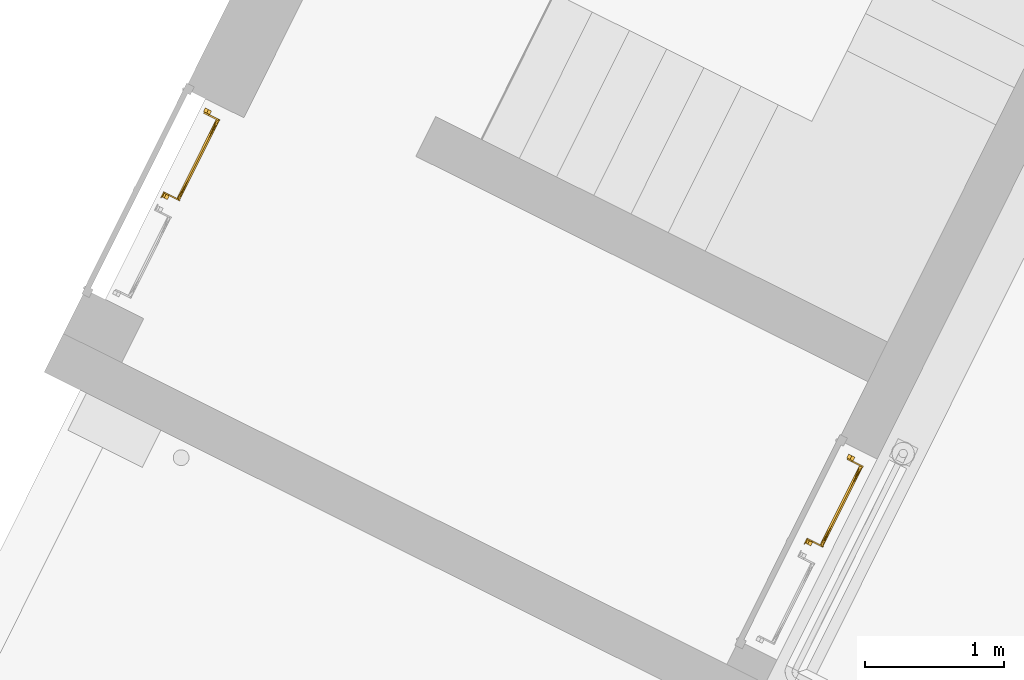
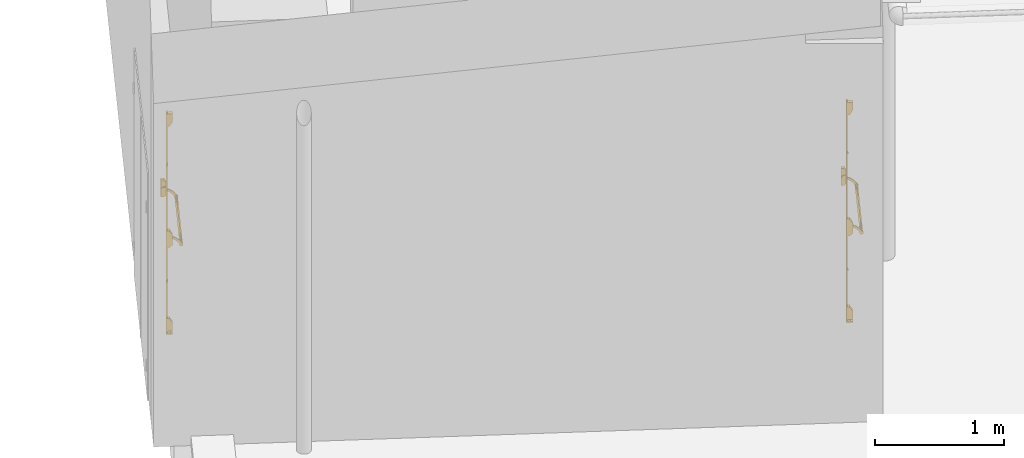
# One storey, part 27 of 91: 2 doors.
"""IFC2X3 building model written with IfcOpenShell, lengths in metres."""

from ifc_helpers import new_model, entity, si_unit, converted_unit, derived_unit, direction, frame, origin, place, context, subcontext, project, spatial, faceted_brep, source, transform, mapped, material, material_list, type_object, type_shapes, element, save


model = new_model("IFC2X3")

# Units and contexts
model_context = context("Model", 3, precision=1e-05, world=origin(), true_north=direction((0.894925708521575, 0.446215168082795)))
context_of_model = context(None, 3, precision=1e-05, world=origin(), true_north=direction((0.894925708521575, 0.446215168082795)))
body_context = subcontext(model_context, "Body", "Model", "MODEL_VIEW")
ifc_project = project(units=[si_unit("LENGTHUNIT", "METRE"), si_unit("AREAUNIT", "SQUARE_METRE"), si_unit("VOLUMEUNIT", "CUBIC_METRE"), converted_unit("PLANEANGLEUNIT", "DEGREE", entity("IfcRatioMeasure", 0.0174532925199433), si_unit("PLANEANGLEUNIT", "RADIAN"), dimensions=[0, 0, 0, 0, 0, 0, 0]), si_unit("MASSUNIT", "GRAM", prefix="KILO"), si_unit("TIMEUNIT", "SECOND"), si_unit("FREQUENCYUNIT", "HERTZ"), si_unit("THERMODYNAMICTEMPERATUREUNIT", "DEGREE_CELSIUS"), derived_unit("THERMALTRANSMITTANCEUNIT", [(si_unit("MASSUNIT", "GRAM", prefix="KILO"), 1), (si_unit("THERMODYNAMICTEMPERATUREUNIT", "KELVIN"), -1), (si_unit("TIMEUNIT", "SECOND"), -3)]), derived_unit("VOLUMETRICFLOWRATEUNIT", [(si_unit("LENGTHUNIT", "METRE"), 3), (si_unit("TIMEUNIT", "SECOND"), -1)]), si_unit("ELECTRICCURRENTUNIT", "AMPERE"), si_unit("ELECTRICVOLTAGEUNIT", "VOLT"), si_unit("POWERUNIT", "WATT"), si_unit("FORCEUNIT", "NEWTON", prefix="KILO"), si_unit("ILLUMINANCEUNIT", "LUX"), si_unit("LUMINOUSFLUXUNIT", "LUMEN"), si_unit("LUMINOUSINTENSITYUNIT", "CANDELA"), si_unit("PRESSUREUNIT", "PASCAL")], contexts=[model_context, context_of_model])

# Site, building, storey
site_placement = place(None, frame((218.228324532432, 584.720189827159, 0.0), z_axis=(0.0, 0.0, 1.0), x_axis=(0.446215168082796, 0.894925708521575, 0.0)))
site = spatial("IfcSite", under=ifc_project, at=site_placement, Name="Default", CompositionType="ELEMENT")
building_placement = place(site_placement, origin())
building = spatial("IfcBuilding", under=site, at=building_placement, CompositionType="ELEMENT")
storey_placement = place(building_placement, origin())
storey = spatial("IfcBuildingStorey", under=building, at=storey_placement, Name="0 - Piano Terra", CompositionType="ELEMENT", Elevation=0.0)

# Doors
ifc_material_1 = material(Name="Peinture - Gris fonçé")
ifc_material_2 = material(Name="Peinture - Gris")
ifc_material_list_1 = material_list([ifc_material_1, ifc_material_2])
ifc_material_list_2 = material_list([ifc_material_1, ifc_material_2])
door_style = type_object("IfcDoorStyle", Name="BarreAP", ConstructionType="NOTDEFINED", OperationType="NOTDEFINED", ParameterTakesPrecedence=False, Sizeable=False, material=ifc_material_list_2)
shared_shape = source(origin(), body_context, "Body", "Brep", [
    faceted_brep([(0.660000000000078, -0.115651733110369, 0.814015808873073), (0.660000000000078, -0.112636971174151, 0.815264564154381), (0.660000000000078, -0.110048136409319, 0.817251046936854), (0.660000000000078, -0.108061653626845, 0.819839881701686), (0.660000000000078, -0.106812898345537, 0.822854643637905), (0.660000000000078, -0.106386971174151, 0.826089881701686), (0.660000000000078, -0.106812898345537, 0.829325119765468), (0.660000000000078, -0.108061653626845, 0.832339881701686), (0.660000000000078, -0.110048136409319, 0.834928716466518), (0.660000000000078, -0.112636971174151, 0.836915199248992), (0.660000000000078, -0.115651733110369, 0.838163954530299), (0.660000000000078, -0.118886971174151, 0.838589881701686), (0.660000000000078, -0.122122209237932, 0.838163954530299), (0.660000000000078, -0.125136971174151, 0.836915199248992), (0.660000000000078, -0.127725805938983, 0.834928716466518), (0.660000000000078, -0.129712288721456, 0.832339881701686), (0.660000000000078, -0.130961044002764, 0.829325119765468), (0.660000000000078, -0.131386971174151, 0.826089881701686), (0.660000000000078, -0.130961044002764, 0.822854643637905), (0.660000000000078, -0.129712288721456, 0.819839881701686), (0.660000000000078, -0.127725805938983, 0.817251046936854), (0.660000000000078, -0.125136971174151, 0.815264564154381), (0.660000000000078, -0.122122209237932, 0.814015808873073), (0.660000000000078, -0.118886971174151, 0.813589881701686), (0.0250000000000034, -0.122122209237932, 0.838163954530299), (0.0250000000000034, -0.118886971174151, 0.838589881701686), (0.0250000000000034, -0.115651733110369, 0.838163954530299), (0.0250000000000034, -0.112636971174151, 0.836915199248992), (0.0250000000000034, -0.110048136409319, 0.834928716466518), (0.0250000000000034, -0.108061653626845, 0.832339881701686), (0.0250000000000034, -0.106812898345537, 0.829325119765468), (0.0250000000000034, -0.106386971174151, 0.826089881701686), (0.0250000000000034, -0.106812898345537, 0.822854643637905), (0.0250000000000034, -0.108061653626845, 0.819839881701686), (0.0250000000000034, -0.110048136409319, 0.817251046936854), (0.0250000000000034, -0.112636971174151, 0.815264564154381), (0.0250000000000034, -0.115651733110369, 0.814015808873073), (0.0250000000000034, -0.118886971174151, 0.813589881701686), (0.0250000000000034, -0.122122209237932, 0.814015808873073), (0.0250000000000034, -0.125136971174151, 0.815264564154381), (0.0250000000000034, -0.127725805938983, 0.817251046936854), (0.0250000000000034, -0.129712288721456, 0.819839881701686), (0.0250000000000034, -0.130961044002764, 0.822854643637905), (0.0250000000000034, -0.131386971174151, 0.826089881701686), (0.0250000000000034, -0.130961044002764, 0.829325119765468), (0.0250000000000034, -0.129712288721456, 0.832339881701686), (0.0250000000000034, -0.127725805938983, 0.834928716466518), (0.0250000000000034, -0.125136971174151, 0.836915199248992), (0.187822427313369, -0.117501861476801, 0.813666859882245), (0.148450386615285, -0.131386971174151, 0.826089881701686), (0.342500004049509, -0.117635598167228, 0.813652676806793), (0.27190080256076, -0.106386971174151, 0.826089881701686), (0.342500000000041, -0.106386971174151, 0.826089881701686), (0.413099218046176, -0.106386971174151, 0.826089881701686), (0.497177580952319, -0.117501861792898, 0.813666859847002), (0.536549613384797, -0.131386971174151, 0.826089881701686), (0.342500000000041, -0.131386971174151, 0.826089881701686), (0.413099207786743, -0.131386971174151, 0.826089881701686), (0.536549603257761, -0.106386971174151, 0.826089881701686), (0.14845039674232, -0.106386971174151, 0.826089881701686), (0.271900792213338, -0.131386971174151, 0.826089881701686), (0.49717758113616, -0.120272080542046, 0.83851290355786), (0.187822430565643, -0.120272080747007, 0.838512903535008), (0.342500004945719, -0.120138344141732, 0.838527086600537)], [[[0, 1, 2, 3, 4, 5, 6, 7, 8, 9, 10, 11, 12, 13, 14, 15, 16, 17, 18, 19, 20, 21, 22, 23]], [[24, 25, 26, 27, 28, 29, 30, 31, 32, 33, 34, 35, 36, 37, 38, 39, 40, 41, 42, 43, 44, 45, 46, 47]], [[35, 48, 36]], [[38, 48, 39]], [[39, 49, 40]], [[48, 35, 34]], [[50, 51, 52, 53]], [[23, 54, 0]], [[55, 20, 19]], [[49, 41, 40]], [[55, 54, 21]], [[37, 36, 48]], [[41, 49, 42]], [[42, 49, 43]], [[18, 17, 55]], [[48, 50, 56]], [[54, 56, 50]], [[54, 55, 57, 56]], [[4, 3, 54]], [[55, 19, 18]], [[37, 48, 38]], [[34, 33, 48]], [[32, 48, 33]], [[48, 32, 51]], [[50, 48, 51]], [[4, 53, 58, 5]], [[32, 31, 59, 51]], [[48, 56, 60, 49]], [[20, 55, 21]], [[22, 21, 54]], [[4, 54, 53]], [[23, 22, 54]], [[54, 2, 1]], [[1, 0, 54]], [[49, 39, 48]], [[50, 53, 54]], [[3, 2, 54]], [[16, 15, 61]], [[59, 27, 62]], [[16, 61, 57]], [[62, 27, 26]], [[62, 63, 52]], [[15, 14, 61]], [[8, 7, 58]], [[59, 29, 28]], [[62, 25, 24]], [[58, 61, 9]], [[59, 31, 30]], [[6, 5, 58]], [[11, 61, 12]], [[7, 6, 58]], [[52, 63, 61]], [[25, 62, 26]], [[28, 27, 59]], [[47, 46, 62]], [[61, 58, 53, 52]], [[63, 60, 56, 57]], [[29, 59, 30]], [[45, 62, 46]], [[44, 62, 45]], [[62, 44, 60]], [[63, 62, 60]], [[16, 57, 55, 17]], [[44, 43, 49, 60]], [[47, 62, 24]], [[8, 58, 9]], [[61, 10, 9]], [[11, 10, 61]], [[14, 13, 61]], [[12, 61, 13]], [[63, 57, 61]], [[62, 52, 51, 59]]]),
    faceted_brep([(0.660000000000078, -0.0338758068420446, 0.91792261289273), (0.660000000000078, -0.0289439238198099, 0.919607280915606), (0.660000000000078, -0.0237442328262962, 0.919960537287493), (0.660000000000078, -0.0186298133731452, 0.918958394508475), (0.660000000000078, -0.0139479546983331, 0.916668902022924), (0.660000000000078, -0.0100165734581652, 0.913247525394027), (0.660000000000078, -0.00710262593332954, 0.908926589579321), (0.660000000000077, -0.00540398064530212, 0.903999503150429), (0.660000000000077, -0.00503598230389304, 0.898800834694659), (0.660000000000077, -0.0060236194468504, 0.893683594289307), (0.660000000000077, -0.00829982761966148, 0.888995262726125), (0.660000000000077, -0.0117100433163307, 0.885054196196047), (0.660000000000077, -0.0160226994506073, 0.88212800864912), (0.660000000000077, -0.0209449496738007, 0.880415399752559), (0.660000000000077, -0.0261425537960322, 0.880032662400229), (0.660000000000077, -0.0312625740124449, 0.881005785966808), (0.660000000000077, -0.0359573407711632, 0.883268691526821), (0.660000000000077, -0.039908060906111, 0.886667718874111), (0.660000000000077, -0.065856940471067, 0.873811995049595), (0.660000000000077, -0.0879705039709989, 0.855114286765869), (0.660000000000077, -0.10496092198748, 0.831663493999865), (0.660000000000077, -0.104007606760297, 0.827988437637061), (0.660000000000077, -0.10400755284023, 0.824191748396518), (0.660000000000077, -0.104960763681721, 0.820516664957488), (0.660000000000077, -0.106806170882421, 0.817198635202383), (0.660000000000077, -0.109425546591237, 0.814450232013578), (0.660000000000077, -0.112651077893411, 0.812447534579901), (0.660000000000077, -0.11627611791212, 0.811318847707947), (0.660000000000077, -0.120068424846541, 0.811136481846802), (0.660000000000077, -0.123785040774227, 0.811912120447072), (0.660000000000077, -0.127187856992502, 0.813596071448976), (0.660000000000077, -0.130058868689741, 0.816080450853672), (0.660000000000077, -0.132214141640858, 0.819206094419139), (0.660000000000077, -0.133515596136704, 0.822772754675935), (0.660000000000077, -0.133879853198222, 0.826551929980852), (0.660000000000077, -0.133283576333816, 0.830301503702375), (0.660000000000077, -0.13176496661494, 0.833781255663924), (0.660000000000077, -0.129421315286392, 0.836768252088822), (0.660000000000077, -0.126402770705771, 0.839071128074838), (0.660000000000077, -0.122902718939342, 0.840542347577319), (0.660000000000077, -0.10242643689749, 0.868938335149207), (0.660000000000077, -0.0755453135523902, 0.891366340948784), (0.660000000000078, -0.0439402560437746, 0.906423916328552), (0.660000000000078, -0.041637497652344, 0.911099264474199), (0.660000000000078, -0.0382049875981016, 0.915020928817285), (0.670000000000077, -0.127187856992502, 0.813596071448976), (0.670000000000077, -0.123785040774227, 0.811912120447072), (0.670000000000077, -0.120068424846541, 0.811136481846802), (0.670000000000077, -0.11627611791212, 0.811318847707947), (0.670000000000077, -0.112651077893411, 0.812447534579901), (0.670000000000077, -0.109425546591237, 0.814450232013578), (0.670000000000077, -0.106806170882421, 0.817198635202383), (0.670000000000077, -0.104960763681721, 0.820516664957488), (0.670000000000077, -0.10400755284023, 0.824191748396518), (0.670000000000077, -0.104007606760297, 0.827988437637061), (0.670000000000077, -0.10496092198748, 0.831663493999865), (0.670000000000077, -0.0879705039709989, 0.855114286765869), (0.670000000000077, -0.065856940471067, 0.873811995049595), (0.670000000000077, -0.039908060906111, 0.886667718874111), (0.670000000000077, -0.0359573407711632, 0.883268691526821), (0.670000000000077, -0.0312625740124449, 0.881005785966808), (0.670000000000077, -0.0261425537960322, 0.880032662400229), (0.670000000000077, -0.0209449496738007, 0.880415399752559), (0.670000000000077, -0.0160226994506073, 0.88212800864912), (0.670000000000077, -0.0117100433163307, 0.885054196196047), (0.670000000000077, -0.00829982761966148, 0.888995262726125), (0.670000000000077, -0.0060236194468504, 0.893683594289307), (0.670000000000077, -0.00503598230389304, 0.898800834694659), (0.670000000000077, -0.00540398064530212, 0.903999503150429), (0.670000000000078, -0.00710262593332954, 0.908926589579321), (0.670000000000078, -0.0100165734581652, 0.913247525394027), (0.670000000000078, -0.0139479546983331, 0.916668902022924), (0.670000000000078, -0.0186298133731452, 0.918958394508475), (0.670000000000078, -0.0237442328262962, 0.919960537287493), (0.670000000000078, -0.0289439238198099, 0.919607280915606), (0.670000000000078, -0.0338758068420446, 0.91792261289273), (0.670000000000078, -0.0382049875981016, 0.915020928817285), (0.670000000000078, -0.041637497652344, 0.911099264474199), (0.670000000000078, -0.0439402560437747, 0.906423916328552), (0.670000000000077, -0.0755453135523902, 0.891366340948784), (0.670000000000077, -0.10242643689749, 0.868938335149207), (0.670000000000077, -0.122902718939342, 0.840542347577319), (0.670000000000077, -0.126402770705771, 0.839071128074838), (0.670000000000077, -0.129421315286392, 0.836768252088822), (0.670000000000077, -0.13176496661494, 0.833781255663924), (0.670000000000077, -0.133283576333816, 0.830301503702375), (0.670000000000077, -0.133879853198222, 0.826551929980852), (0.670000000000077, -0.133515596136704, 0.822772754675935), (0.670000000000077, -0.132214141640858, 0.819206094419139), (0.670000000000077, -0.130058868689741, 0.816080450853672)], [[[0, 1, 2, 3, 4, 5, 6, 7, 8, 9, 10, 11, 12, 13, 14, 15, 16, 17, 18, 19, 20, 21, 22, 23, 24, 25, 26, 27, 28, 29, 30, 31, 32, 33, 34, 35, 36, 37, 38, 39, 40, 41, 42, 43, 44]], [[45, 46, 47, 48, 49, 50, 51, 52, 53, 54, 55, 56, 57, 58, 59, 60, 61, 62, 63, 64, 65, 66, 67, 68, 69, 70, 71, 72, 73, 74, 75, 76, 77, 78, 79, 80, 81, 82, 83, 84, 85, 86, 87, 88, 89]], [[77, 43, 42, 78]], [[75, 0, 44, 76]], [[44, 43, 77, 76]], [[1, 0, 75, 74]], [[3, 2, 73, 72]], [[5, 4, 71, 70]], [[72, 71, 4, 3]], [[74, 73, 2, 1]], [[69, 6, 5, 70]], [[6, 69, 68, 7]], [[67, 8, 7, 68]], [[65, 10, 9, 66]], [[9, 8, 67, 66]], [[11, 10, 65, 64]], [[13, 12, 63, 62]], [[15, 14, 61, 60]], [[62, 61, 14, 13]], [[64, 63, 12, 11]], [[59, 16, 15, 60]], [[59, 58, 17, 16]], [[58, 57, 18, 17]], [[57, 56, 19, 18]], [[56, 55, 20, 19]], [[54, 21, 20, 55]], [[52, 23, 22, 53]], [[22, 21, 54, 53]], [[24, 23, 52, 51]], [[26, 25, 50, 49]], [[28, 27, 48, 47]], [[49, 48, 27, 26]], [[51, 50, 25, 24]], [[46, 29, 28, 47]], [[46, 45, 30, 29]], [[89, 31, 30, 45]], [[87, 33, 32, 88]], [[32, 31, 89, 88]], [[34, 33, 87, 86]], [[36, 35, 85, 84]], [[38, 37, 83, 82]], [[84, 83, 37, 36]], [[86, 85, 35, 34]], [[81, 39, 38, 82]], [[81, 80, 40, 39]], [[80, 79, 41, 40]], [[79, 78, 42, 41]]]),
    faceted_brep([(0.025, -0.129421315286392, 0.836768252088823), (0.025, -0.13176496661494, 0.833781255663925), (0.025, -0.133283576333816, 0.830301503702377), (0.025, -0.133879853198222, 0.826551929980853), (0.025, -0.133515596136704, 0.822772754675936), (0.025, -0.132214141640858, 0.819206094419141), (0.025, -0.130058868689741, 0.816080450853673), (0.025, -0.127187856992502, 0.813596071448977), (0.025, -0.123785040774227, 0.811912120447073), (0.025, -0.120068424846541, 0.811136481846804), (0.025, -0.11627611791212, 0.811318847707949), (0.025, -0.112651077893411, 0.812447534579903), (0.025, -0.109425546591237, 0.81445023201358), (0.025, -0.106806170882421, 0.817198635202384), (0.025, -0.104960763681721, 0.82051666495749), (0.025, -0.10400755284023, 0.824191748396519), (0.025, -0.104007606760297, 0.827988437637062), (0.025, -0.10496092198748, 0.831663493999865), (0.025, -0.0879705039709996, 0.85511428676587), (0.025, -0.0658569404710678, 0.873811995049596), (0.025, -0.0399080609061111, 0.886667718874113), (0.025, -0.0359573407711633, 0.883268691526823), (0.025, -0.031262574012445, 0.881005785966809), (0.025, -0.0261425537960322, 0.88003266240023), (0.025, -0.0209449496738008, 0.880415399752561), (0.025, -0.0160226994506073, 0.882128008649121), (0.025, -0.0117100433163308, 0.885054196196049), (0.025, -0.00829982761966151, 0.888995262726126), (0.025, -0.00602361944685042, 0.893683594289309), (0.025, -0.00503598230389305, 0.89880083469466), (0.025, -0.00540398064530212, 0.903999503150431), (0.025, -0.00710262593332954, 0.908926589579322), (0.025, -0.0100165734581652, 0.913247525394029), (0.025, -0.0139479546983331, 0.916668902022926), (0.025, -0.0186298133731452, 0.918958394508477), (0.025, -0.0237442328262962, 0.919960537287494), (0.025, -0.0289439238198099, 0.919607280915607), (0.025, -0.0338758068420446, 0.917922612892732), (0.025, -0.0382049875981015, 0.915020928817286), (0.025, -0.041637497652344, 0.9110992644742), (0.025, -0.0439402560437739, 0.906423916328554), (0.025, -0.0755453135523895, 0.891366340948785), (0.025, -0.10242643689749, 0.868938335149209), (0.025, -0.122902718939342, 0.84054234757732), (0.025, -0.126402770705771, 0.839071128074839), (0.015, -0.00710262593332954, 0.908926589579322), (0.015, -0.00540398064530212, 0.903999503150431), (0.015, -0.00503598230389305, 0.89880083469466), (0.015, -0.00602361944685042, 0.893683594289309), (0.015, -0.00829982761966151, 0.888995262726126), (0.015, -0.0117100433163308, 0.885054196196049), (0.015, -0.0160226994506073, 0.882128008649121), (0.015, -0.0209449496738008, 0.880415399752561), (0.015, -0.0261425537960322, 0.88003266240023), (0.015, -0.031262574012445, 0.881005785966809), (0.015, -0.0359573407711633, 0.883268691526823), (0.015, -0.0399080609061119, 0.886667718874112), (0.015, -0.0658569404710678, 0.873811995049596), (0.015, -0.0879705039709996, 0.85511428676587), (0.015, -0.10496092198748, 0.831663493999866), (0.015, -0.104007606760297, 0.827988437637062), (0.015, -0.10400755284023, 0.824191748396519), (0.015, -0.104960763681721, 0.82051666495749), (0.015, -0.106806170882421, 0.817198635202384), (0.015, -0.109425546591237, 0.81445023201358), (0.015, -0.112651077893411, 0.812447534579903), (0.015, -0.11627611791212, 0.811318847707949), (0.015, -0.120068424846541, 0.811136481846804), (0.015, -0.123785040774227, 0.811912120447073), (0.015, -0.127187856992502, 0.813596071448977), (0.015, -0.130058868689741, 0.816080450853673), (0.015, -0.132214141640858, 0.819206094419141), (0.015, -0.133515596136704, 0.822772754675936), (0.015, -0.133879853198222, 0.826551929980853), (0.015, -0.133283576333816, 0.830301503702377), (0.015, -0.13176496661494, 0.833781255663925), (0.015, -0.129421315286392, 0.836768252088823), (0.015, -0.126402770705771, 0.839071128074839), (0.015, -0.122902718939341, 0.840542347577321), (0.015, -0.10242643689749, 0.868938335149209), (0.015, -0.0755453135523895, 0.891366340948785), (0.015, -0.0439402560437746, 0.906423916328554), (0.015, -0.041637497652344, 0.9110992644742), (0.015, -0.0382049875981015, 0.915020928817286), (0.015, -0.0338758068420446, 0.917922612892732), (0.015, -0.0289439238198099, 0.919607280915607), (0.015, -0.0237442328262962, 0.919960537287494), (0.015, -0.0186298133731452, 0.918958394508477), (0.015, -0.0139479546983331, 0.916668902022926), (0.015, -0.0100165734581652, 0.913247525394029)], [[[0, 1, 2, 3, 4, 5, 6, 7, 8, 9, 10, 11, 12, 13, 14, 15, 16, 17, 18, 19, 20, 21, 22, 23, 24, 25, 26, 27, 28, 29, 30, 31, 32, 33, 34, 35, 36, 37, 38, 39, 40, 41, 42, 43, 44]], [[45, 46, 47, 48, 49, 50, 51, 52, 53, 54, 55, 56, 57, 58, 59, 60, 61, 62, 63, 64, 65, 66, 67, 68, 69, 70, 71, 72, 73, 74, 75, 76, 77, 78, 79, 80, 81, 82, 83, 84, 85, 86, 87, 88, 89]], [[81, 80, 41, 40]], [[80, 79, 42, 41]], [[79, 78, 43, 42]], [[77, 44, 43, 78]], [[75, 1, 0, 76]], [[0, 44, 77, 76]], [[2, 1, 75, 74]], [[4, 3, 73, 72]], [[6, 5, 71, 70]], [[72, 71, 5, 4]], [[74, 73, 3, 2]], [[69, 7, 6, 70]], [[69, 68, 8, 7]], [[67, 9, 8, 68]], [[65, 11, 10, 66]], [[10, 9, 67, 66]], [[12, 11, 65, 64]], [[14, 13, 63, 62]], [[16, 15, 61, 60]], [[62, 61, 15, 14]], [[64, 63, 13, 12]], [[59, 17, 16, 60]], [[59, 58, 18, 17]], [[58, 57, 19, 18]], [[57, 56, 20, 19]], [[55, 21, 20, 56]], [[53, 23, 22, 54]], [[22, 21, 55, 54]], [[24, 23, 53, 52]], [[26, 25, 51, 50]], [[28, 27, 49, 48]], [[50, 49, 27, 26]], [[52, 51, 25, 24]], [[47, 29, 28, 48]], [[29, 47, 46, 30]], [[45, 31, 30, 46]], [[88, 33, 32, 89]], [[32, 31, 45, 89]], [[34, 33, 88, 87]], [[36, 35, 86, 85]], [[38, 37, 84, 83]], [[85, 84, 37, 36]], [[87, 86, 35, 34]], [[82, 39, 38, 83]], [[82, 81, 40, 39]]]),
    faceted_brep([(0.700000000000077, -0.0500000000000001, 0.936698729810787), (0.700000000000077, -0.0500000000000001, 0.844999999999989), (0.700000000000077, -0.0250000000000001, 0.819999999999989), (0.700000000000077, 0.0, 0.819999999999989), (0.700000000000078, 0.0, 0.980000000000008), (0.700000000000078, -0.0250000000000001, 0.980000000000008), (0.670000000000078, -0.0500000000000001, 0.936698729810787), (0.670000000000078, -0.0250000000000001, 0.980000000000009), (0.670000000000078, 0.0, 0.980000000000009), (0.670000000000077, 0.0, 0.819999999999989), (0.670000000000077, -0.0250000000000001, 0.819999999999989), (0.670000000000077, -0.0500000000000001, 0.844999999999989)], [[[0, 1, 2, 3, 4, 5]], [[6, 7, 8, 9, 10, 11]], [[1, 0, 6, 11]], [[2, 1, 11, 10]], [[3, 2, 10, 9]], [[4, 3, 9, 8]], [[5, 4, 8, 7]], [[0, 5, 7, 6]]]),
    faceted_brep([(-0.0129999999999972, -0.005, 1.605), (-0.0129999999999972, -0.015, 1.605), (0.0130000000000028, -0.015, 1.605), (0.013000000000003, -0.005, 1.605), (0.0250000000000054, -0.005, 1.605), (0.0250000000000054, 0.0, 1.605), (0.00800000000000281, 0.0, 1.605), (0.00800000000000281, -0.01, 1.605), (-0.00799999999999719, -0.01, 1.605), (-0.00799999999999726, 0.0, 1.605), (-0.0249999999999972, 0.0, 1.605), (-0.0249999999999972, -0.005, 1.605), (-0.0129999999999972, -0.005, 1.595), (-0.0249999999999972, -0.005, 1.595), (-0.0249999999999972, 0.0, 1.595), (-0.00799999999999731, 0.0, 1.595), (-0.00799999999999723, -0.01, 1.595), (0.00800000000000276, -0.01, 1.595), (0.00800000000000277, 0.0, 1.595), (0.0250000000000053, 0.0, 1.595), (0.0250000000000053, -0.005, 1.595), (0.013000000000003, -0.005, 1.595), (0.0130000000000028, -0.015, 1.595), (-0.0129999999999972, -0.015, 1.595)], [[[0, 1, 2, 3, 4, 5, 6, 7, 8, 9, 10, 11]], [[12, 13, 14, 15, 16, 17, 18, 19, 20, 21, 22, 23]], [[1, 0, 12, 23]], [[2, 1, 23, 22]], [[3, 2, 22, 21]], [[4, 3, 21, 20]], [[5, 4, 20, 19]], [[6, 5, 19, 18]], [[7, 6, 18, 17]], [[8, 7, 17, 16]], [[9, 8, 16, 15]], [[10, 9, 15, 14]], [[11, 10, 14, 13]], [[0, 11, 13, 12]]]),
    faceted_brep([(0.015, -0.0500000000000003, 2.00830127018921), (0.015, -0.0250000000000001, 1.96499999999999), (0.015, 0.0, 1.96499999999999), (0.015, 0.0, 2.08499999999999), (0.015, -0.0500000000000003, 2.08499999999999), (-0.015, -0.0500000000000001, 0.106698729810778), (-0.015, -0.0250000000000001, 0.15), (-0.015, 0.0, 0.15), (-0.015, 0.0, 0.0300000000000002), (-0.015, -0.0500000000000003, 0.0300000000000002), (-0.015, -0.0500000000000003, 2.00830127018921), (-0.015, -0.0250000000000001, 1.96499999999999), (-0.015, 0.0, 1.96499999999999), (-0.008, 0.0, 1.96499999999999), (-0.008, -0.01, 1.96499999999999), (0.008, -0.01, 1.96499999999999), (0.008, 0.0, 1.96499999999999), (0.008, 0.0, 0.98000000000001), (0.015, 0.0, 0.98000000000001), (0.015, 0.0, 0.819999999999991), (0.008, 0.0, 0.819999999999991), (0.008, 0.0, 0.15), (0.015, 0.0, 0.15), (0.015, 0.0, 0.0300000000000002), (0.008, 0.0, 0.0300000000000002), (0.008, 0.0, 0.0149999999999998), (-0.008, 0.0, 0.0149999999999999), (-0.008, 0.0, 0.0300000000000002), (-0.008, 0.0, 0.15), (-0.008, 0.0, 0.819999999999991), (-0.015, 0.0, 0.819999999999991), (-0.015, 0.0, 0.98000000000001), (-0.008, 0.0, 0.98000000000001), (-0.015, 0.0, 2.08499999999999), (-0.008, 0.0, 2.08499999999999), (-0.008, 0.0, 2.1), (0.008, 0.0, 2.1), (0.008, 0.0, 2.08499999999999), (0.008, -0.01, 2.08499999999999), (-0.008, -0.01, 2.08499999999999), (-0.015, -0.0500000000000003, 2.08499999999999), (0.015, -0.0500000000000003, 0.0300000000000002), (0.015, -0.0500000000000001, 0.106698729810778), (-0.008, -0.01, 0.0300000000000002), (0.008, -0.01, 0.0300000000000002), (0.015, -0.0250000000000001, 0.15), (0.008, -0.01, 0.15), (-0.008, -0.01, 0.15), (-0.008, -0.01, 2.1), (0.008, -0.01, 2.1), (0.008, -0.01, 0.0149999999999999), (-0.008, -0.01, 0.0149999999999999), (0.015, -0.025, 0.98000000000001), (0.015, -0.0500000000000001, 0.936698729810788), (0.015, -0.0500000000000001, 0.844999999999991), (0.015, -0.025, 0.819999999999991), (-0.015, -0.025, 0.98000000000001), (-0.015, -0.025, 0.819999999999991), (-0.015, -0.0500000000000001, 0.844999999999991), (-0.015, -0.0500000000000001, 0.936698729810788), (-0.008, -0.01, 0.819999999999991), (0.008, -0.01, 0.819999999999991), (0.008, -0.01, 0.98000000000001), (-0.008, -0.01, 0.98000000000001)], [[[0, 1, 2, 3, 4]], [[5, 6, 7, 8, 9]], [[1, 0, 10, 11]], [[2, 1, 11, 12, 13, 14, 15, 16]], [[3, 2, 16, 17, 18, 19, 20, 21, 22, 23, 24, 25, 26, 27, 8, 7, 28, 29, 30, 31, 32, 13, 12, 33, 34, 35, 36, 37]], [[4, 3, 37, 38, 39, 34, 33, 40]], [[0, 4, 40, 10]], [[41, 42, 5, 9]], [[23, 41, 9, 8, 27, 43, 44, 24]], [[45, 22, 21, 46, 47, 28, 7, 6]], [[42, 45, 6, 5]], [[36, 35, 48, 49]], [[25, 50, 51, 26]], [[48, 35, 34, 39]], [[49, 48, 39, 38]], [[36, 49, 38, 37]], [[52, 53, 54, 55, 19, 18]], [[56, 31, 30, 57, 58, 59]], [[53, 52, 56, 59]], [[54, 53, 59, 58]], [[55, 54, 58, 57]], [[19, 55, 57, 30, 29, 60, 61, 20]], [[52, 18, 17, 62, 63, 32, 31, 56]], [[16, 15, 62, 17]], [[46, 21, 20, 61]], [[50, 25, 24, 44]], [[15, 14, 63, 62]], [[47, 46, 61, 60]], [[51, 50, 44, 43]], [[14, 13, 32, 63]], [[28, 47, 60, 29]], [[26, 51, 43, 27]], [[10, 40, 33, 12, 11]], [[42, 41, 23, 22, 45]]]),
    faceted_brep([(-0.00799999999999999, -0.01, 0.505), (-0.00800000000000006, 0.0, 0.505), (-0.025, 0.0, 0.505), (-0.025, -0.005, 0.505), (-0.013, -0.005, 0.505), (-0.013, -0.015, 0.505), (0.013, -0.015, 0.504999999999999), (0.013, -0.005, 0.504999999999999), (0.0250000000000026, -0.005, 0.504999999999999), (0.0250000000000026, 0.0, 0.504999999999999), (0.00800000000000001, 0.0, 0.504999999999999), (0.00800000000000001, -0.01, 0.504999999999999), (-0.00800000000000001, -0.01, 0.495), (0.00799999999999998, -0.01, 0.494999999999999), (0.00799999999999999, 0.0, 0.494999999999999), (0.0250000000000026, 0.0, 0.494999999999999), (0.0250000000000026, -0.005, 0.494999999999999), (0.013, -0.005, 0.494999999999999), (0.013, -0.015, 0.494999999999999), (-0.013, -0.015, 0.495), (-0.013, -0.005, 0.495), (-0.025, -0.005, 0.495), (-0.025, 0.0, 0.495), (-0.00800000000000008, 0.0, 0.495)], [[[0, 1, 2, 3, 4, 5, 6, 7, 8, 9, 10, 11]], [[12, 13, 14, 15, 16, 17, 18, 19, 20, 21, 22, 23]], [[1, 0, 12, 23]], [[2, 1, 23, 22]], [[3, 2, 22, 21]], [[4, 3, 21, 20]], [[5, 4, 20, 19]], [[6, 5, 19, 18]], [[7, 6, 18, 17]], [[8, 7, 17, 16]], [[9, 8, 16, 15]], [[10, 9, 15, 14]], [[11, 10, 14, 13]], [[0, 11, 13, 12]]]),
    faceted_brep([(0.015, -0.0322782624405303, 0.015), (0.015, -0.0500000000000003, 0.00673621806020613), (0.015, -0.0500000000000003, 0.0), (0.015, 0.0, 0.0), (0.015, 0.0, 0.0149999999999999), (-0.015, -0.0322782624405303, 0.015), (-0.015, 0.0, 0.0149999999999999), (-0.015, 0.0, 0.0), (-0.015, -0.0500000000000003, 0.0), (-0.015, -0.0500000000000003, 0.00673621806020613)], [[[0, 1, 2, 3, 4]], [[5, 6, 7, 8, 9]], [[1, 0, 5, 9]], [[2, 1, 9, 8]], [[3, 2, 8, 7]], [[4, 3, 7, 6]], [[0, 4, 6, 5]]]),
])
type_shapes(door_style, [shared_shape])
door_1_placement = place(storey_placement, frame((-3.46078502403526, 6.26892100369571, 0.0)))
element("IfcDoor", 1, at=door_1_placement, inside=storey, type_object=door_style, material=ifc_material_list_1, Name="BarreAP:BarreAP", ObjectType="BarreAP", OverallHeight=2.1, OverallWidth=0.760000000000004, context=body_context, shape_type="MappedRepresentation", body=[
    mapped(shared_shape, transform((0.0, 0.0, 0.0), scale=1.0)),
])
ifc_material_list_3 = material_list([ifc_material_1, ifc_material_2])
door_2_placement = place(storey_placement, frame((-3.62578502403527, 0.998921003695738, 0.0)))
element("IfcDoor", 2, at=door_2_placement, inside=storey, type_object=door_style, material=ifc_material_list_3, Name="BarreAP:BarreAP", ObjectType="BarreAP", OverallHeight=2.1, OverallWidth=0.760000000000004, context=body_context, shape_type="MappedRepresentation", body=[
    mapped(shared_shape, transform((0.0, 0.0, 0.0), scale=1.0)),
])

save(model, "model.ifc")
